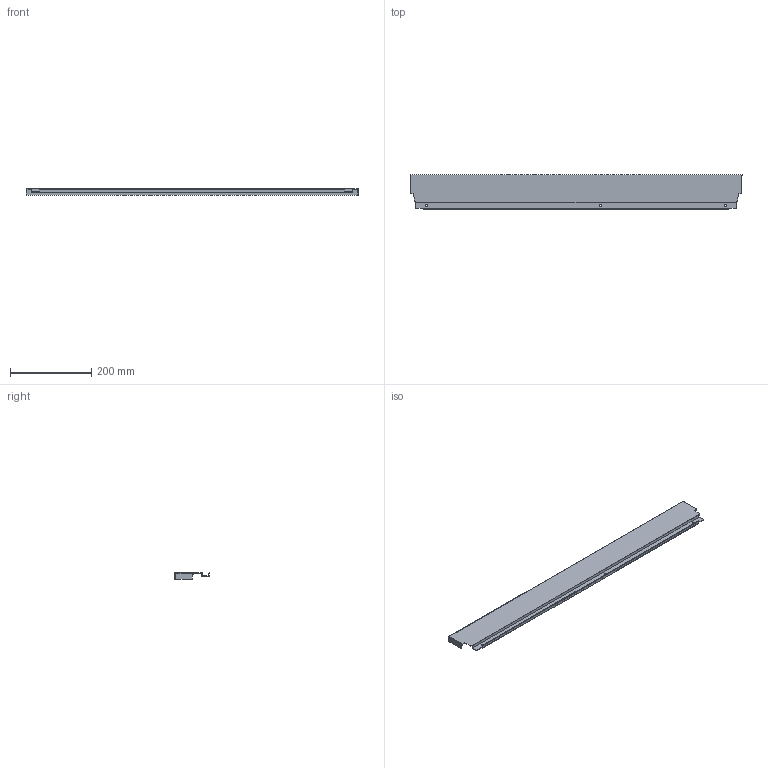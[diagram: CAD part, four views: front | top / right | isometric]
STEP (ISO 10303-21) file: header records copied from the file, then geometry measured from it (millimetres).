
FILE_DESCRIPTION (( 'STEP AP214' ), '1' );
FILE_NAME ('_DWD_XP Stahlrückwand_H86_KAB900_S17.step', '2010-07-08T12:10:13', ( 'grass' ), ( '' ), 'SwSTEP 2.0', 'SolidWorks 2010', '' );
FILE_SCHEMA (( 'AUTOMOTIVE_DESIGN' ));
Length unit declared in the file: millimetre
Products named in the file (1): _DWD_XP Stahlrückwand_H86_KAB900_S17
Bounding box: 817 x 85.79 x 16 mm (x, y, z)
Volume: 87554.5 mm3; surface area: 190066.3 mm2
Topology: 1 solids, 1 shells, 50 faces, 144 edges, 96 vertices
Faces by surface type: plane 44, cylinder 6
Entity records: 1666 total; most frequent: CARTESIAN_POINT 291, ORIENTED_EDGE 288, DIRECTION 258, EDGE_CURVE 144, LINE 132, VECTOR 132, VERTEX_POINT 96, AXIS2_PLACEMENT_3D 63
